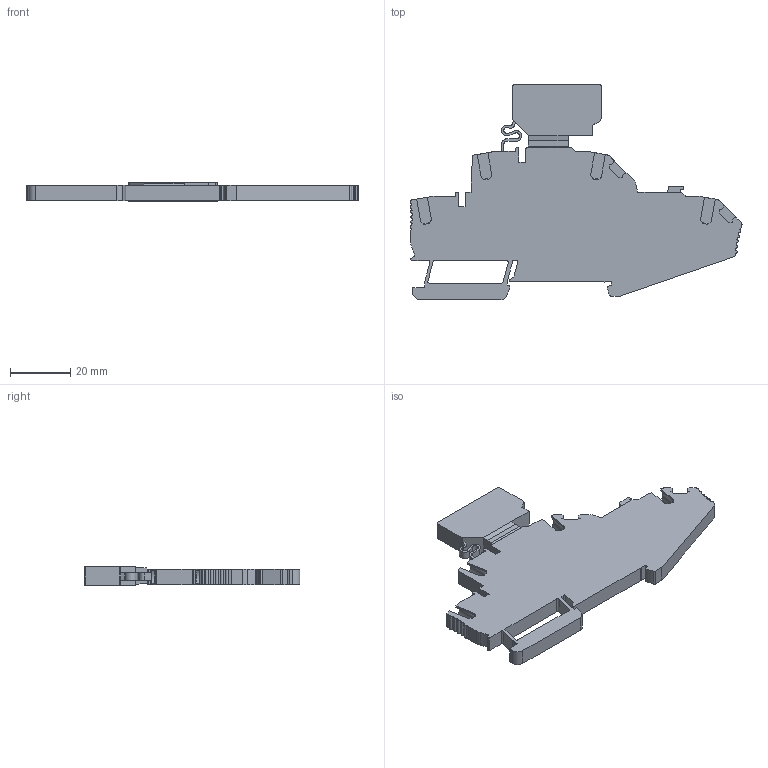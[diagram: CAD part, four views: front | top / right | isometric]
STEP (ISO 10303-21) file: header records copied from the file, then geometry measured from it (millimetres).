
FILE_DESCRIPTION(('Creo Elements/Direct Modeling STEP Export'),'2;1');
FILE_NAME('EFDS202GRA.stp','2020-02-17T12:14:21',(''),(''),'Creo Elements/Direct Modeling STEP processor for AP214 (Solid Model)','Creo Elements/Direct Modeling 20.2A 23-Sep-2019 (C) Parametric Technology GmbH','');
FILE_SCHEMA(('AUTOMOTIVE_DESIGN { 1 0 10303 214 1 1 1 1 }'));
Length unit declared in the file: millimetre
Products named in the file (2): EFDS202
Assembly tree (1 placements, depth 2):
  EFDS202
    EFDS202
Bounding box: 110.27 x 71.5 x 6 mm (x, y, z)
Volume: 20946.4 mm3; surface area: 12796.1 mm2
Topology: 1 solids, 1 shells, 365 faces, 1044 edges, 694 vertices
Faces by surface type: plane 255, cylinder 110
Entity records: 12507 total; most frequent: ORIENTED_EDGE 2088, CARTESIAN_POINT 2052, DIRECTION 1909, EDGE_CURVE 1044, VECTOR 807, LINE 807, VERTEX_POINT 694, AXIS2_PLACEMENT_3D 551
